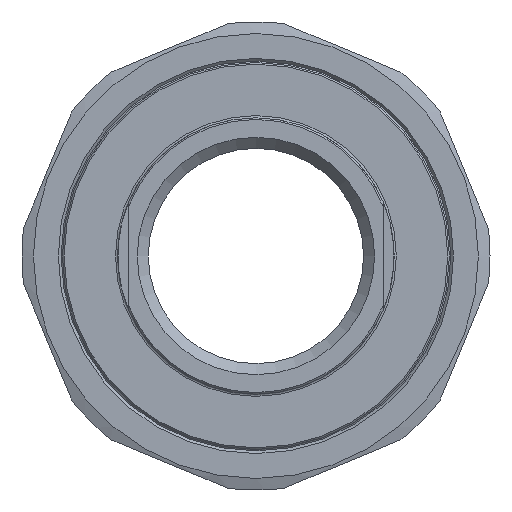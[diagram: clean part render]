
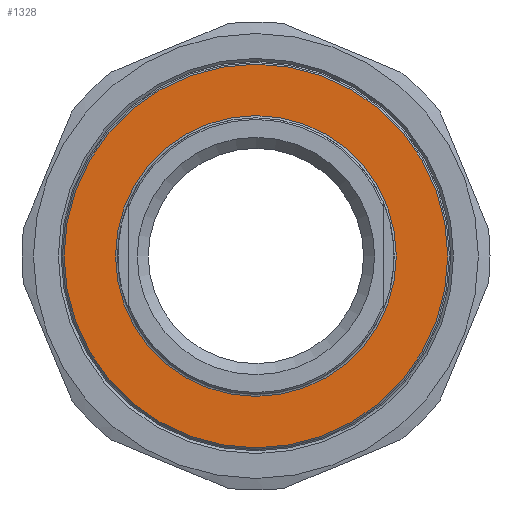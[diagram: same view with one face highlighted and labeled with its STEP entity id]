
A CAD part, left-side view. The second image highlights one B-rep face of the part: STEP entity #1328.
In plain terms, the highlighted planar face has unit normal (-1, 0, 0).
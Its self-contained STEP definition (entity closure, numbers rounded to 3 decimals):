
#59=FACE_BOUND('',#297,.T.);
#133=PLANE('',#1583);
#205=FACE_OUTER_BOUND('',#296,.T.);
#296=EDGE_LOOP('',(#1191));
#297=EDGE_LOOP('',(#1192));
#523=CIRCLE('',#1581,25.4);
#525=CIRCLE('',#1584,34.7);
#651=VERTEX_POINT('',#2469);
#652=VERTEX_POINT('',#2474);
#836=EDGE_CURVE('',#651,#651,#523,.T.);
#838=EDGE_CURVE('',#652,#652,#525,.T.);
#1191=ORIENTED_EDGE('',*,*,#838,.F.);
#1192=ORIENTED_EDGE('',*,*,#836,.F.);
#1328=ADVANCED_FACE('',(#205,#59),#133,.T.);
#1581=AXIS2_PLACEMENT_3D('',#2471,#2004,#2005);
#1583=AXIS2_PLACEMENT_3D('',#2473,#2008,#2009);
#1584=AXIS2_PLACEMENT_3D('',#2475,#2010,#2011);
#2004=DIRECTION('center_axis',(-1.,0.,0.));
#2005=DIRECTION('ref_axis',(0.,-1.,0.));
#2008=DIRECTION('center_axis',(-1.,0.,0.));
#2009=DIRECTION('ref_axis',(0.,0.,1.));
#2010=DIRECTION('center_axis',(1.,0.,0.));
#2011=DIRECTION('ref_axis',(0.,-1.,0.));
#2469=CARTESIAN_POINT('',(-14.5,0.,25.4));
#2471=CARTESIAN_POINT('Origin',(-14.5,0.,0.));
#2473=CARTESIAN_POINT('Origin',(-14.5,35.,0.));
#2474=CARTESIAN_POINT('',(-14.5,34.7,0.));
#2475=CARTESIAN_POINT('Origin',(-14.5,0.,0.));
